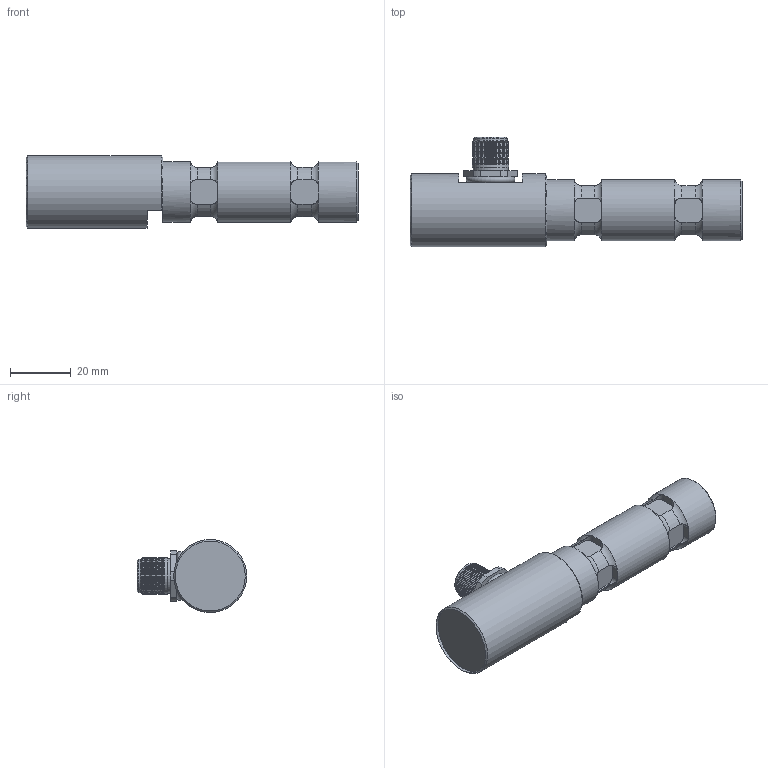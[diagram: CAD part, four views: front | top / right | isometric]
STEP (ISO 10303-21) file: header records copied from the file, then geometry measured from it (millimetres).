
FILE_DESCRIPTION(/* description */ ('Alibre Inc.'),/* implementation_level */ '2;1');
FILE_NAME(/* name */ 'export-D1849F73-72DB-4DA4-A5AA-BBA2702A92D9',/* time_stamp */ '2022-11-10T11:25:20+01:00',/* author */ (''),/* organization */ (''),/* preprocessor_version */ 'ST-DEVELOPER v17',/* originating_system */ 'Alibre',/* authorisation */ '');
FILE_SCHEMA (('CONFIG_CONTROL_DESIGN'));
Length unit declared in the file: centimetre
Bounding box: 109.2 x 36 x 24 mm (x, y, z)
Volume: 37653.8 mm3; surface area: 11805.4 mm2
Topology: 9 solids, 10 shells, 279 faces, 627 edges, 375 vertices
Faces by surface type: cylinder 102, plane 97, cone 62, torus 18
Full cylindrical faces by diameter (mm): 0.5 x16, 8 x2, 10 x1, 11 x1, 11.5 x1, 12 x19, 13 x2, 14.5 x1, 18 x1, 20 x3, 23 x1, 24 x1
Entity records: 7028 total; most frequent: CARTESIAN_POINT 1698, ORIENTED_EDGE 1044, DIRECTION 862, EDGE_CURVE 512, EDGE_LOOP 402, FACE_BOUND 402, AXIS2_PLACEMENT_3D 398, VERTEX_POINT 356
